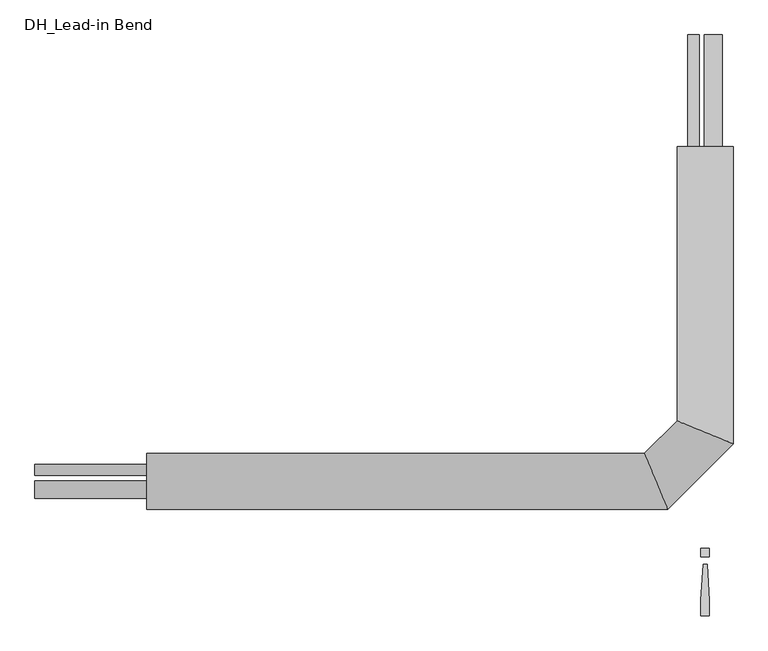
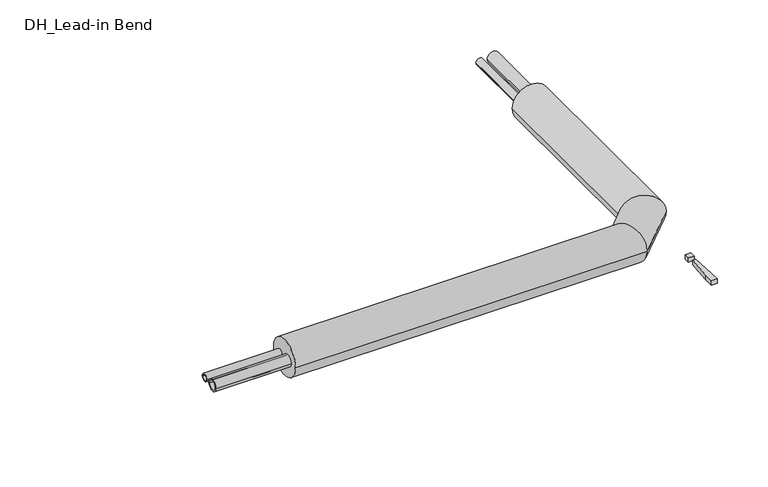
"""IFC4 building model written with IfcOpenShell, lengths in millimetres: pipe fitting geometry, DH_Lead-in Bend : INSULPEX DUO 7.4 DW Vertical."""

from ifc_helpers import new_model, si_unit, point, frame, frame_2d, origin, origin_with_axes, place, context, project, spatial, polyline, circle_curve, ellipse_curve, trimmed, segment, composite_curve, outline, extrude, source, transform, mapped, element, save
from ifc_brep_helpers import plane_surface, cylinder_surface, advanced_brep


def dh_lead_in_bend_4e434183(model_context):
    return source(origin(), model_context, "Body", "SolidModel", [
        extrude(outline(composite_curve([segment(trimmed(circle_curve(frame_2d((-18.5, 0.0)), 20.0), [point((1.5, 0.0))], [point((-38.5, 0.0))], False, "CARTESIAN"), True, "CONTINUOUS"), segment(trimmed(circle_curve(frame_2d((-18.5, 0.0)), 20.0), [point((-38.5, 0.0))], [point((1.5, 0.0))], False, "CARTESIAN"), True, "CONTINUOUS")], self_intersect=False), holes=[composite_curve([segment(trimmed(circle_curve(frame_2d((-18.5, 0.0)), 14.5), [point((-4.0, 0.0))], [point((-33.0, 0.0))], True, "CARTESIAN"), True, "CONTINUOUS"), segment(trimmed(circle_curve(frame_2d((-18.5, 0.0)), 14.5), [point((-33.0, 0.0))], [point((-4.0, 0.0))], True, "CARTESIAN"), True, "CONTINUOUS")], self_intersect=False)]), frame((-1500.0, 0.0, 0.0), z_axis=(1.0, 0.0, 0.0), x_axis=(0.0, 1.0, 0.0)), (0.0, 0.0, 1.0), 250.0),
        advanced_brep(
        [(-1250.0, -62.5, 0.0), (-1250.0, 62.5, 0.0), (-84.1116524, -62.5, 0.0), (-135.8883476, 62.5, 0.0), (62.5, 750.0, 0.0), (-62.5, 750.0, 0.0), (-62.5, 135.8883476, 0.0), (62.5, 84.1116524, 0.0)],
        [
            (0, 1, circle_curve(frame((-1250.0, 0.0, 0.0), z_axis=(-1.0, 0.0, 0.0), x_axis=(0.0, 1.0, 0.0)), 62.5)),
            (1, 0, circle_curve(frame((-1250.0, 0.0, 0.0), z_axis=(-1.0, 0.0, 0.0), x_axis=(0.0, 1.0, 0.0)), 62.5)),
            (0, 2),
            (2, 3, ellipse_curve(frame((-110.0, 0.0, 0.0), z_axis=(-0.9238795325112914, -0.3826834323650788, 0.0), x_axis=(-0.38268343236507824, 0.9238795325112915, 0.0)), 67.6495125, 62.5)),
            (3, 1),
            (3, 2, ellipse_curve(frame((-110.0, 0.0, 0.0), z_axis=(-0.9238795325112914, -0.3826834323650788, 0.0), x_axis=(-0.38268343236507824, 0.9238795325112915, 0.0)), 67.6495125, 62.5)),
            (4, 5, circle_curve(frame((0.0, 750.0, 0.0), z_axis=(0.0, 1.0, 0.0), x_axis=(-1.0, 0.0, 0.0)), 62.5)),
            (5, 4, circle_curve(frame((0.0, 750.0, 0.0), z_axis=(0.0, 1.0, 0.0), x_axis=(-1.0, 0.0, 0.0)), 62.5)),
            (6, 7, ellipse_curve(frame((0.0, 110.0, 0.0), z_axis=(0.38268343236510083, 0.9238795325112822, 0.0), x_axis=(0.9238795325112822, -0.3826834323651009, 0.0)), 67.6495125, 62.5)),
            (7, 4),
            (5, 6),
            (7, 6, ellipse_curve(frame((0.0, 110.0, 0.0), z_axis=(0.38268343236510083, 0.9238795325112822, 0.0), x_axis=(0.9238795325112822, -0.3826834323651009, 0.0)), 67.6495125, 62.5)),
            (2, 7),
            (6, 3),
        ],
        [
            plane_surface(frame((-1250.0, 0.0, 0.0), z_axis=(-1.0, 0.0, 0.0), x_axis=(0.0, 0.0, 1.0))),
            cylinder_surface(frame((-1250.0, 0.0, 0.0), z_axis=(-1.0, 0.0, 0.0), x_axis=(0.0, 1.0, 0.0)), 62.5),
            plane_surface(frame((0.0, 750.0, 0.0), z_axis=(0.0, 1.0, 0.0), x_axis=(0.0, 0.0, 1.0))),
            cylinder_surface(frame((0.0, 110.0, 0.0), z_axis=(0.0, -1.0, 0.0), x_axis=(-1.0, 0.0, 0.0)), 62.5),
            cylinder_surface(frame((-110.0, 0.0, 0.0), z_axis=(-0.7071067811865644, -0.7071067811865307, 0.0), x_axis=(-0.7071067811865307, 0.7071067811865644, 0.0)), 62.5),
        ],
        [
            (0, [[1, 2]]),
            (1, [[-1, 3, 4, 5]]),
            (1, [[-2, -5, 6, -3]]),
            (2, [[7, 8]]),
            (3, [[9, 10, -8, 11]]),
            (3, [[12, -11, -7, -10]]),
            (4, [[-4, 13, -9, 14]]),
            (4, [[-6, -14, -12, -13]]),
        ],
    ),
        extrude(outline(composite_curve([segment(trimmed(circle_curve(frame_2d((0.0, -26.0)), 12.5), [point((0.0, -13.5))], [point((0.0, -38.5))], False, "CARTESIAN"), True, "CONTINUOUS"), segment(trimmed(circle_curve(frame_2d((0.0, -26.0)), 12.5), [point((0.0, -38.5))], [point((0.0, -13.5))], False, "CARTESIAN"), True, "CONTINUOUS")], self_intersect=False), holes=[composite_curve([segment(trimmed(circle_curve(frame_2d((0.0, -26.0)), 9.0), [point((0.0, -17.0))], [point((0.0, -35.0))], True, "CARTESIAN"), True, "CONTINUOUS"), segment(trimmed(circle_curve(frame_2d((0.0, -26.0)), 9.0), [point((0.0, -35.0))], [point((0.0, -17.0))], True, "CARTESIAN"), True, "CONTINUOUS")], self_intersect=False)]), frame((0.0, 750.0, 0.0), z_axis=(0.0, 1.0, 0.0), x_axis=(0.0, 0.0, 1.0)), (0.0, 0.0, 1.0), 250.0),
        extrude(outline(composite_curve([segment(trimmed(circle_curve(frame_2d((26.0, 0.0)), 12.5), [point((13.5, 0.0))], [point((38.5, 0.0))], False, "CARTESIAN"), True, "CONTINUOUS"), segment(trimmed(circle_curve(frame_2d((26.0, 0.0)), 12.5), [point((38.5, 0.0))], [point((13.5, 0.0))], False, "CARTESIAN"), True, "CONTINUOUS")], self_intersect=False), holes=[composite_curve([segment(trimmed(circle_curve(frame_2d((26.0, 0.0)), 9.0), [point((17.0, 0.0))], [point((35.0, 0.0))], True, "CARTESIAN"), True, "CONTINUOUS"), segment(trimmed(circle_curve(frame_2d((26.0, 0.0)), 9.0), [point((35.0, 0.0))], [point((17.0, 0.0))], True, "CARTESIAN"), True, "CONTINUOUS")], self_intersect=False)]), frame((-1500.0, 0.0, 0.0), z_axis=(1.0, 0.0, 0.0), x_axis=(0.0, 1.0, 0.0)), (0.0, 0.0, 1.0), 250.0),
        extrude(outline(composite_curve([segment(trimmed(circle_curve(frame_2d((0.0, 18.5)), 20.0), [point((0.0, -1.5))], [point((0.0, 38.5))], False, "CARTESIAN"), True, "CONTINUOUS"), segment(trimmed(circle_curve(frame_2d((0.0, 18.5)), 20.0), [point((0.0, 38.5))], [point((0.0, -1.5))], False, "CARTESIAN"), True, "CONTINUOUS")], self_intersect=False), holes=[composite_curve([segment(trimmed(circle_curve(frame_2d((0.0, 18.5)), 14.5), [point((0.0, 4.0))], [point((0.0, 33.0))], True, "CARTESIAN"), True, "CONTINUOUS"), segment(trimmed(circle_curve(frame_2d((0.0, 18.5)), 14.5), [point((0.0, 33.0))], [point((0.0, 4.0))], True, "CARTESIAN"), True, "CONTINUOUS")], self_intersect=False)]), frame((0.0, 750.0, 0.0), z_axis=(0.0, 1.0, 0.0), x_axis=(0.0, 0.0, 1.0)), (0.0, 0.0, 1.0), 250.0),
        extrude(outline(polyline([(4.7088895, -185.3166715), (9.4177791, -266.6553807), (9.4177791, -300.6844652), (-9.4177791, -300.6844652), (-9.4177791, -266.6553807), (-4.7088895, -185.3166715), (4.7088895, -185.3166715)])), origin_with_axes(), (0.0, 0.0, 1.0), 15.0),
        extrude(outline(polyline([(9.4177791, -150.0), (9.4177791, -168.8355582), (-9.4177791, -168.8355582), (-9.4177791, -150.0), (9.4177791, -150.0)])), origin_with_axes(), (0.0, 0.0, 1.0), 15.0),
    ])


if __name__ == "__main__":
    model = new_model("IFC4")
    model_context = context("Model", 3, world=origin())
    ifc_project = project(units=[si_unit("LENGTHUNIT", "METRE", prefix="MILLI")], contexts=[model_context])
    site = spatial("IfcSite", under=ifc_project)
    building = spatial("IfcBuilding", under=site)
    placement = place(None, origin())
    dh_lead_in_bend_shape = dh_lead_in_bend_4e434183(model_context)
    element("IfcPipeFitting", 1, ObjectType="DH_Lead-in Bend : INSULPEX DUO 7.4 DW Vertical", at=placement, inside=building, context=model_context, shape_type="MappedRepresentation", body=[
        mapped(dh_lead_in_bend_shape, transform((0.0, 0.0, 0.0), x_axis=(1.0, 0.0, 0.0), y_axis=(0.0, 1.0, 0.0), z_axis=(0.0, 0.0, 1.0))),
    ])
    save(model, "model.ifc")
